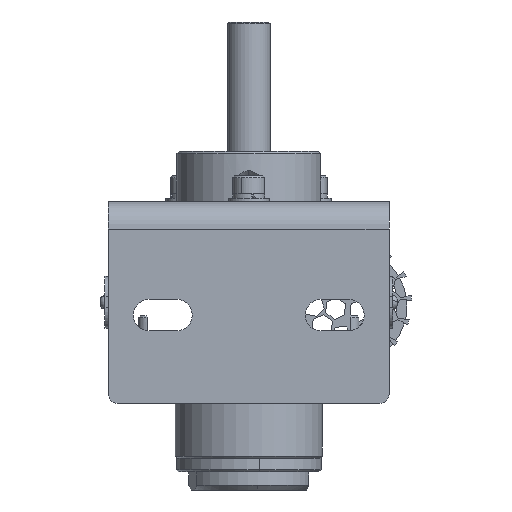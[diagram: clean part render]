
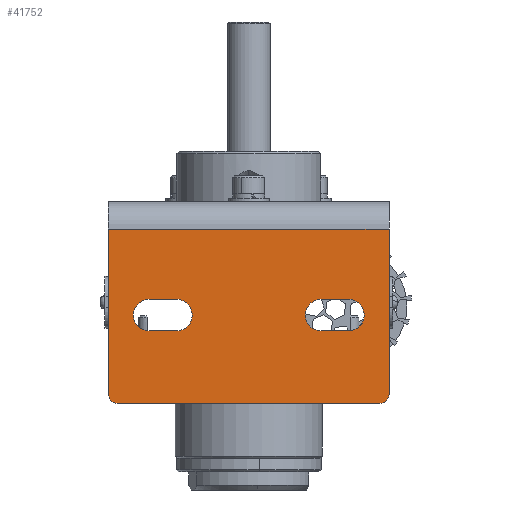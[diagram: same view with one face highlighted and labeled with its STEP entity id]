
A CAD part, front view. The second image highlights one B-rep face of the part: STEP entity #41752.
In plain terms, the highlighted planar face has unit normal (0, -1, 0).
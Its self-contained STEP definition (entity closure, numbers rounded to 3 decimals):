
#101 = ORIENTED_EDGE ( 'NONE', *, *, #11718, .F. ) ;
#416 = CARTESIAN_POINT ( 'NONE',  ( -16., -43.85, -2.825 ) ) ;
#612 = VERTEX_POINT ( 'NONE', #6728 ) ;
#780 = EDGE_CURVE ( 'NONE', #10346, #6876, #18518, .T. ) ;
#1808 = LINE ( 'NONE', #29485, #29720 ) ;
#1954 = EDGE_LOOP ( 'NONE', ( #6721, #42275, #2210, #24736, #41014, #2366 ) ) ;
#2210 = ORIENTED_EDGE ( 'NONE', *, *, #8122, .F. ) ;
#2332 = DIRECTION ( 'NONE',  ( 0., 0., 1. ) ) ;
#2366 = ORIENTED_EDGE ( 'NONE', *, *, #8534, .T. ) ;
#2468 = DIRECTION ( 'NONE',  ( 1., 0., 0. ) ) ;
#2765 = VERTEX_POINT ( 'NONE', #43353 ) ;
#3282 = VERTEX_POINT ( 'NONE', #26456 ) ;
#3997 = VERTEX_POINT ( 'NONE', #15525 ) ;
#4246 = VERTEX_POINT ( 'NONE', #29505 ) ;
#4268 = VERTEX_POINT ( 'NONE', #19598 ) ;
#4827 = DIRECTION ( 'NONE',  ( 0., -1., 0. ) ) ;
#5184 = AXIS2_PLACEMENT_3D ( 'NONE', #10055, #34193, #44300 ) ;
#5589 = AXIS2_PLACEMENT_3D ( 'NONE', #10971, #14179, #24244 ) ;
#5754 = PLANE ( 'NONE',  #21899 ) ;
#6037 = VECTOR ( 'NONE', #22450, 1000. ) ;
#6721 = ORIENTED_EDGE ( 'NONE', *, *, #16124, .F. ) ;
#6728 = CARTESIAN_POINT ( 'NONE',  ( -31., -43.85, -20.325 ) ) ;
#6876 = VERTEX_POINT ( 'NONE', #27102 ) ;
#7589 = CARTESIAN_POINT ( 'NONE',  ( 31., -43.85, -20.325 ) ) ;
#8058 = VERTEX_POINT ( 'NONE', #33546 ) ;
#8122 = EDGE_CURVE ( 'NONE', #12646, #28396, #30196, .T. ) ;
#8534 = EDGE_CURVE ( 'NONE', #45155, #24644, #26794, .T. ) ;
#8604 = DIRECTION ( 'NONE',  ( 1., 0., 0. ) ) ;
#8942 = CARTESIAN_POINT ( 'NONE',  ( 31., -43.85, -22.325 ) ) ;
#9100 = DIRECTION ( 'NONE',  ( -1., 0., 0. ) ) ;
#9543 = CARTESIAN_POINT ( 'NONE',  ( 16., -43.85, -6.325 ) ) ;
#10055 = CARTESIAN_POINT ( 'NONE',  ( 16., -43.85, -2.825 ) ) ;
#10148 = EDGE_CURVE ( 'NONE', #3997, #10346, #1808, .T. ) ;
#10197 = DIRECTION ( 'NONE',  ( 0., -1., 0. ) ) ;
#10346 = VERTEX_POINT ( 'NONE', #20018 ) ;
#10786 = ORIENTED_EDGE ( 'NONE', *, *, #15883, .F. ) ;
#10971 = CARTESIAN_POINT ( 'NONE',  ( -22., -43.85, -2.825 ) ) ;
#11074 = ORIENTED_EDGE ( 'NONE', *, *, #10148, .F. ) ;
#11259 = VECTOR ( 'NONE', #36634, 1000. ) ;
#11718 = EDGE_CURVE ( 'NONE', #43925, #3997, #30624, .T. ) ;
#12646 = VERTEX_POINT ( 'NONE', #22790 ) ;
#13110 = DIRECTION ( 'NONE',  ( -1., 0., 0. ) ) ;
#13287 = DIRECTION ( 'NONE',  ( -1., 0., 0. ) ) ;
#13637 = CARTESIAN_POINT ( 'NONE',  ( 16., -43.85, -6.325 ) ) ;
#13824 = VERTEX_POINT ( 'NONE', #13637 ) ;
#14179 = DIRECTION ( 'NONE',  ( 0., -1., 0. ) ) ;
#14327 = DIRECTION ( 'NONE',  ( 0., -1., 0. ) ) ;
#14866 = EDGE_CURVE ( 'NONE', #2765, #3282, #40703, .T. ) ;
#14878 = VECTOR ( 'NONE', #9100, 1000. ) ;
#15525 = CARTESIAN_POINT ( 'NONE',  ( -22., -43.85, -6.325 ) ) ;
#15883 = EDGE_CURVE ( 'NONE', #4246, #43925, #29421, .T. ) ;
#16124 = EDGE_CURVE ( 'NONE', #612, #24644, #43436, .T. ) ;
#16157 = LINE ( 'NONE', #39844, #11259 ) ;
#16280 = DIRECTION ( 'NONE',  ( 0., 0., -1. ) ) ;
#16356 = VECTOR ( 'NONE', #19197, 1000. ) ;
#16587 = CARTESIAN_POINT ( 'NONE',  ( -29., -43.85, -20.325 ) ) ;
#16793 = DIRECTION ( 'NONE',  ( 0., -1., 0. ) ) ;
#17843 = DIRECTION ( 'NONE',  ( -1., 0., 0. ) ) ;
#18518 = CIRCLE ( 'NONE', #24870, 3.5 ) ;
#18759 = CIRCLE ( 'NONE', #26141, 3.5 ) ;
#19026 = CARTESIAN_POINT ( 'NONE',  ( 29., -43.85, -20.325 ) ) ;
#19197 = DIRECTION ( 'NONE',  ( 0., 0., 1. ) ) ;
#19462 = EDGE_CURVE ( 'NONE', #3282, #13824, #45079, .T. ) ;
#19520 = DIRECTION ( 'NONE',  ( 0., 0., -1. ) ) ;
#19598 = CARTESIAN_POINT ( 'NONE',  ( 22., -43.85, 0.675 ) ) ;
#19987 = EDGE_CURVE ( 'NONE', #612, #28396, #43239, .T. ) ;
#20018 = CARTESIAN_POINT ( 'NONE',  ( -16., -43.85, -6.325 ) ) ;
#20073 = CARTESIAN_POINT ( 'NONE',  ( -31., -43.85, -22.325 ) ) ;
#20808 = ORIENTED_EDGE ( 'NONE', *, *, #780, .F. ) ;
#21099 = EDGE_CURVE ( 'NONE', #13824, #8058, #21184, .T. ) ;
#21184 = LINE ( 'NONE', #9543, #24970 ) ;
#21197 = CARTESIAN_POINT ( 'NONE',  ( 22., -43.85, -2.825 ) ) ;
#21611 = LINE ( 'NONE', #33532, #37480 ) ;
#21859 = CARTESIAN_POINT ( 'NONE',  ( -31., -43.85, 16.175 ) ) ;
#21899 = AXIS2_PLACEMENT_3D ( 'NONE', #40502, #29736, #19520 ) ;
#22224 = DIRECTION ( 'NONE',  ( 0., 0., -1. ) ) ;
#22246 = DIRECTION ( 'NONE',  ( 0., -1., 0. ) ) ;
#22450 = DIRECTION ( 'NONE',  ( -1., 0., 0. ) ) ;
#22790 = CARTESIAN_POINT ( 'NONE',  ( 29., -43.85, -22.325 ) ) ;
#23188 = VECTOR ( 'NONE', #2332, 1000. ) ;
#23226 = EDGE_CURVE ( 'NONE', #8058, #4268, #18759, .T. ) ;
#23461 = FACE_BOUND ( 'NONE', #24125, .T. ) ;
#23946 = VERTEX_POINT ( 'NONE', #7589 ) ;
#24125 = EDGE_LOOP ( 'NONE', ( #10786, #36887, #20808, #11074, #101 ) ) ;
#24244 = DIRECTION ( 'NONE',  ( -1., 0., 0. ) ) ;
#24644 = VERTEX_POINT ( 'NONE', #21859 ) ;
#24736 = ORIENTED_EDGE ( 'NONE', *, *, #37727, .T. ) ;
#24870 = AXIS2_PLACEMENT_3D ( 'NONE', #416, #22246, #26047 ) ;
#24970 = VECTOR ( 'NONE', #2468, 1000. ) ;
#25971 = EDGE_LOOP ( 'NONE', ( #39856, #41210, #26802, #40224, #37187 ) ) ;
#26047 = DIRECTION ( 'NONE',  ( -1., 0., 0. ) ) ;
#26141 = AXIS2_PLACEMENT_3D ( 'NONE', #21197, #14327, #17843 ) ;
#26303 = CARTESIAN_POINT ( 'NONE',  ( -29., -43.85, -22.325 ) ) ;
#26456 = CARTESIAN_POINT ( 'NONE',  ( 12.5, -43.85, -2.825 ) ) ;
#26732 = LINE ( 'NONE', #30213, #16356 ) ;
#26794 = LINE ( 'NONE', #29798, #6037 ) ;
#26802 = ORIENTED_EDGE ( 'NONE', *, *, #23226, .F. ) ;
#27102 = CARTESIAN_POINT ( 'NONE',  ( -16., -43.85, 0.675 ) ) ;
#28396 = VERTEX_POINT ( 'NONE', #26303 ) ;
#28549 = CARTESIAN_POINT ( 'NONE',  ( -25.5, -43.85, -2.825 ) ) ;
#29421 = CIRCLE ( 'NONE', #33383, 3.5 ) ;
#29485 = CARTESIAN_POINT ( 'NONE',  ( -22., -43.85, -6.325 ) ) ;
#29505 = CARTESIAN_POINT ( 'NONE',  ( -22., -43.85, 0.675 ) ) ;
#29720 = VECTOR ( 'NONE', #8604, 1000. ) ;
#29736 = DIRECTION ( 'NONE',  ( 0., -1., 0. ) ) ;
#29798 = CARTESIAN_POINT ( 'NONE',  ( 31., -43.85, 16.175 ) ) ;
#30196 = LINE ( 'NONE', #8942, #14878 ) ;
#30213 = CARTESIAN_POINT ( 'NONE',  ( 31., -43.85, -22.325 ) ) ;
#30624 = CIRCLE ( 'NONE', #5589, 3.5 ) ;
#31196 = EDGE_CURVE ( 'NONE', #4268, #2765, #16157, .T. ) ;
#32022 = CIRCLE ( 'NONE', #39300, 2. ) ;
#33383 = AXIS2_PLACEMENT_3D ( 'NONE', #34032, #10197, #13110 ) ;
#33532 = CARTESIAN_POINT ( 'NONE',  ( -22., -43.85, 0.675 ) ) ;
#33546 = CARTESIAN_POINT ( 'NONE',  ( 22., -43.85, -6.325 ) ) ;
#33576 = DIRECTION ( 'NONE',  ( 0., -1., 0. ) ) ;
#33671 = DIRECTION ( 'NONE',  ( -1., 0., 0. ) ) ;
#33875 = FACE_OUTER_BOUND ( 'NONE', #1954, .T. ) ;
#34032 = CARTESIAN_POINT ( 'NONE',  ( -22., -43.85, -2.825 ) ) ;
#34193 = DIRECTION ( 'NONE',  ( 0., -1., 0. ) ) ;
#34231 = CARTESIAN_POINT ( 'NONE',  ( 16., -43.85, -2.825 ) ) ;
#35040 = AXIS2_PLACEMENT_3D ( 'NONE', #34231, #16793, #13287 ) ;
#36634 = DIRECTION ( 'NONE',  ( -1., 0., 0. ) ) ;
#36887 = ORIENTED_EDGE ( 'NONE', *, *, #38329, .F. ) ;
#37187 = ORIENTED_EDGE ( 'NONE', *, *, #19462, .F. ) ;
#37480 = VECTOR ( 'NONE', #33671, 1000. ) ;
#37727 = EDGE_CURVE ( 'NONE', #12646, #23946, #32022, .T. ) ;
#38329 = EDGE_CURVE ( 'NONE', #6876, #4246, #21611, .T. ) ;
#39300 = AXIS2_PLACEMENT_3D ( 'NONE', #19026, #4827, #22224 ) ;
#39844 = CARTESIAN_POINT ( 'NONE',  ( 16., -43.85, 0.675 ) ) ;
#39856 = ORIENTED_EDGE ( 'NONE', *, *, #14866, .F. ) ;
#40224 = ORIENTED_EDGE ( 'NONE', *, *, #21099, .F. ) ;
#40502 = CARTESIAN_POINT ( 'NONE',  ( 31., -43.85, -22.325 ) ) ;
#40703 = CIRCLE ( 'NONE', #5184, 3.5 ) ;
#41014 = ORIENTED_EDGE ( 'NONE', *, *, #41640, .T. ) ;
#41210 = ORIENTED_EDGE ( 'NONE', *, *, #31196, .F. ) ;
#41640 = EDGE_CURVE ( 'NONE', #23946, #45155, #26732, .T. ) ;
#41752 = ADVANCED_FACE ( 'NONE', ( #23461, #44821, #33875 ), #5754, .T. ) ;
#42275 = ORIENTED_EDGE ( 'NONE', *, *, #19987, .T. ) ;
#43239 = CIRCLE ( 'NONE', #44774, 2. ) ;
#43269 = CARTESIAN_POINT ( 'NONE',  ( 31., -43.85, 16.175 ) ) ;
#43353 = CARTESIAN_POINT ( 'NONE',  ( 16., -43.85, 0.675 ) ) ;
#43436 = LINE ( 'NONE', #20073, #23188 ) ;
#43925 = VERTEX_POINT ( 'NONE', #28549 ) ;
#44300 = DIRECTION ( 'NONE',  ( -1., 0., 0. ) ) ;
#44774 = AXIS2_PLACEMENT_3D ( 'NONE', #16587, #33576, #16280 ) ;
#44821 = FACE_BOUND ( 'NONE', #25971, .T. ) ;
#45079 = CIRCLE ( 'NONE', #35040, 3.5 ) ;
#45155 = VERTEX_POINT ( 'NONE', #43269 ) ;
